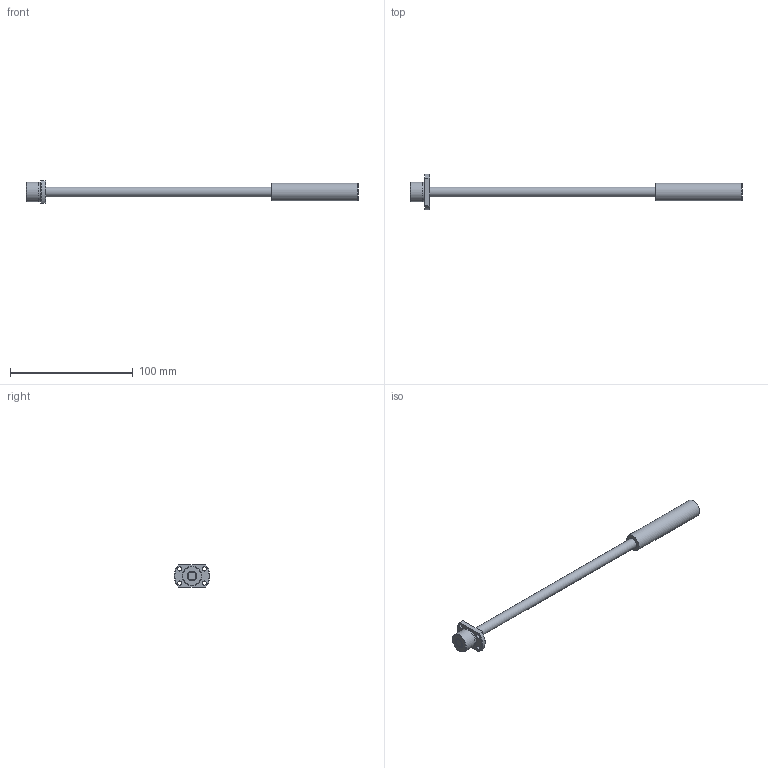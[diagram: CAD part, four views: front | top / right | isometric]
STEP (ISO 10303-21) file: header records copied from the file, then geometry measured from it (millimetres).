
FILE_DESCRIPTION( ( 'STEP AP203' ), '1' );
FILE_NAME( 'e:/temp/worker_93/temp/exporttempdir_3516_1778_rbDKg/format_0/SRT0802.5-196R270C7A0X(0None).stp', '2021-10-19T05:31:30', ( 'License CC BY-ND 4.0' ), ( 'CADENAS' ), ' ', 'PARTsolutions', ' ' );
FILE_SCHEMA( ( 'CONFIG_CONTROL_DESIGN' ) );
Length unit declared in the file: millimetre
Products named in the file (3): SRT0802.5-196R270C7A0X(0None); _SRT0802.5-196R270ACt7NoneShaft; _SRT0802.5Nut
Assembly tree (2 placements, depth 2):
  SRT0802.5-196R270C7A0X(0None)
    _SRT0802.5-196R270ACt7NoneShaft
    _SRT0802.5Nut
Bounding box: 270 x 29 x 18 mm (x, y, z)
Volume: 24507.5 mm3; surface area: 10727.8 mm2
Topology: 2 solids, 2 shells, 27 faces, 61 edges, 41 vertices
Faces by surface type: cylinder 11, plane 9, cone 7
Full cylindrical faces by diameter (mm): 3.4 x4, 8 x2, 14.2 x1, 15.7 x1, 16 x1
Entity records: 812 total; most frequent: CARTESIAN_POINT 136, DIRECTION 126, ORIENTED_EDGE 90, AXIS2_PLACEMENT_3D 59, EDGE_LOOP 52, EDGE_CURVE 45, VERTEX_POINT 37, FACE_OUTER_BOUND 36
